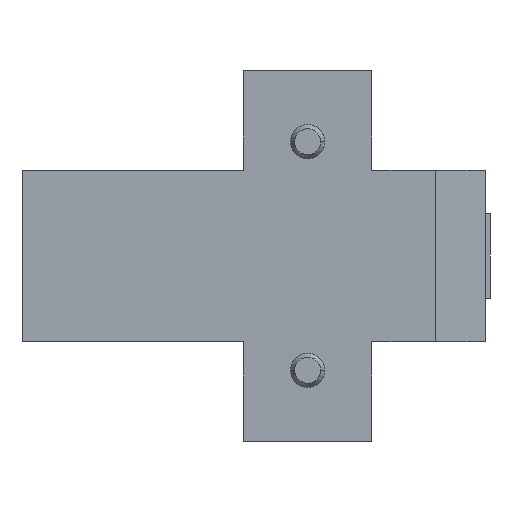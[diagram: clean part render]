
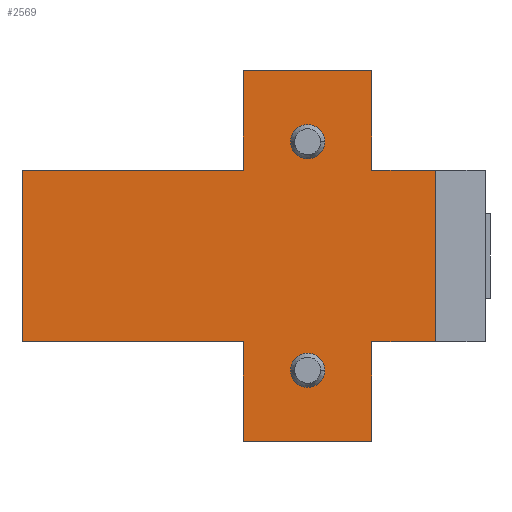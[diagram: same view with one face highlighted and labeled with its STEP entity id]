
A CAD part, left-side view. The second image highlights one B-rep face of the part: STEP entity #2569.
In plain terms, the highlighted planar face has unit normal (-1, 0, 0).
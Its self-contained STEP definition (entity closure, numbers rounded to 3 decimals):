
#11 = EDGE_CURVE ( 'NONE', #3430, #3428, #148, .T. ) ;
#12 = EDGE_CURVE ( 'NONE', #3442, #3446, #2036, .T. ) ;
#13 = EDGE_CURVE ( 'NONE', #3442, #3448, #2035, .T. ) ;
#14 = EDGE_CURVE ( 'NONE', #3447, #3448, #2034, .T. ) ;
#23 = VECTOR ( 'NONE', #2316, 1000. ) ;
#26 = AXIS2_PLACEMENT_3D ( 'NONE', #2210, #2211, #2212 ) ;
#30 = VECTOR ( 'NONE', #2308, 1000. ) ;
#58 = VECTOR ( 'NONE', #2314, 1000. ) ;
#60 = CIRCLE ( 'NONE', #382, 2.4 ) ;
#92 = VECTOR ( 'NONE', #2043, 1000. ) ;
#114 = VECTOR ( 'NONE', #2322, 1000. ) ;
#141 = VECTOR ( 'NONE', #2319, 1000. ) ;
#144 = CIRCLE ( 'NONE', #26, 2.4 ) ;
#148 = CIRCLE ( 'NONE', #344, 2.4 ) ;
#160 = AXIS2_PLACEMENT_3D ( 'NONE', #2934, #2930, #2938 ) ;
#199 = VECTOR ( 'NONE', #475, 1000. ) ;
#208 = VECTOR ( 'NONE', #2046, 1000. ) ;
#229 = VECTOR ( 'NONE', #481, 1000. ) ;
#238 = VECTOR ( 'NONE', #2041, 1000. ) ;
#285 = AXIS2_PLACEMENT_3D ( 'NONE', #488, #489, #490 ) ;
#344 = AXIS2_PLACEMENT_3D ( 'NONE', #2037, #2038, #2039 ) ;
#358 = CIRCLE ( 'NONE', #285, 2.4 ) ;
#375 = VECTOR ( 'NONE', #2311, 1000. ) ;
#381 = VECTOR ( 'NONE', #478, 1000. ) ;
#382 = AXIS2_PLACEMENT_3D ( 'NONE', #2227, #2228, #2229 ) ;
#475 = DIRECTION ( 'NONE',  ( 0., 1., 0. ) ) ;
#476 = LINE ( 'NONE', #477, #381 ) ;
#477 = CARTESIAN_POINT ( 'NONE',  ( 0., -9., -26. ) ) ;
#478 = DIRECTION ( 'NONE',  ( 0., 0., 1. ) ) ;
#479 = LINE ( 'NONE', #480, #229 ) ;
#480 = CARTESIAN_POINT ( 'NONE',  ( 0., -9., 26. ) ) ;
#481 = DIRECTION ( 'NONE',  ( 0., 1., 0. ) ) ;
#488 = CARTESIAN_POINT ( 'NONE',  ( 0., 0., 16. ) ) ;
#489 = DIRECTION ( 'NONE',  ( -1., 0., 0. ) ) ;
#490 = DIRECTION ( 'NONE',  ( 0., 0., -1. ) ) ;
#988 = EDGE_CURVE ( 'NONE', #3428, #3430, #144, .T. ) ;
#994 = EDGE_CURVE ( 'NONE', #2841, #3411, #60, .T. ) ;
#1029 = VERTEX_POINT ( 'NONE', #2285 ) ;
#1050 = EDGE_CURVE ( 'NONE', #3443, #3447, #2304, .T. ) ;
#1051 = EDGE_CURVE ( 'NONE', #3435, #3443, #2305, .T. ) ;
#1052 = EDGE_CURVE ( 'NONE', #3437, #3435, #2306, .T. ) ;
#1053 = EDGE_CURVE ( 'NONE', #3437, #1029, #2307, .T. ) ;
#1054 = EDGE_CURVE ( 'NONE', #3567, #1029, #2317, .T. ) ;
#1055 = EDGE_CURVE ( 'NONE', #3568, #3567, #2310, .T. ) ;
#1056 = EDGE_CURVE ( 'NONE', #3568, #3558, #2313, .T. ) ;
#1057 = EDGE_CURVE ( 'NONE', #3558, #3560, #476, .T. ) ;
#1058 = EDGE_CURVE ( 'NONE', #3560, #3446, #479, .T. ) ;
#1060 = EDGE_CURVE ( 'NONE', #3411, #2841, #358, .T. ) ;
#1252 = CARTESIAN_POINT ( 'NONE',  ( 0., 2.4, 16. ) ) ;
#1258 = CARTESIAN_POINT ( 'NONE',  ( 0., -2.4, 16. ) ) ;
#1273 = CARTESIAN_POINT ( 'NONE',  ( 0., 2.4, -16. ) ) ;
#1275 = CARTESIAN_POINT ( 'NONE',  ( 0., -2.4, -16. ) ) ;
#1280 = CARTESIAN_POINT ( 'NONE',  ( 0., 9., -26. ) ) ;
#1282 = CARTESIAN_POINT ( 'NONE',  ( 0., -9., -26. ) ) ;
#1287 = CARTESIAN_POINT ( 'NONE',  ( 0., 9., 12. ) ) ;
#1288 = CARTESIAN_POINT ( 'NONE',  ( 0., 9., -12. ) ) ;
#1291 = CARTESIAN_POINT ( 'NONE',  ( 0., 9., 26. ) ) ;
#1292 = CARTESIAN_POINT ( 'NONE',  ( 0., 40., -12. ) ) ;
#1293 = CARTESIAN_POINT ( 'NONE',  ( 0., 40., 12. ) ) ;
#1399 = CARTESIAN_POINT ( 'NONE',  ( 0., -9., 12. ) ) ;
#1401 = CARTESIAN_POINT ( 'NONE',  ( 0., -9., 26. ) ) ;
#1408 = CARTESIAN_POINT ( 'NONE',  ( 0., -17.9, -12. ) ) ;
#1409 = CARTESIAN_POINT ( 'NONE',  ( 0., -17.9, 12. ) ) ;
#1868 = ORIENTED_EDGE ( 'NONE', *, *, #994, .F. ) ;
#1869 = ORIENTED_EDGE ( 'NONE', *, *, #1060, .F. ) ;
#1870 = ORIENTED_EDGE ( 'NONE', *, *, #1058, .T. ) ;
#1871 = ORIENTED_EDGE ( 'NONE', *, *, #1057, .T. ) ;
#1872 = ORIENTED_EDGE ( 'NONE', *, *, #1056, .T. ) ;
#1873 = ORIENTED_EDGE ( 'NONE', *, *, #1055, .F. ) ;
#1874 = ORIENTED_EDGE ( 'NONE', *, *, #1054, .F. ) ;
#1875 = ORIENTED_EDGE ( 'NONE', *, *, #1053, .T. ) ;
#1876 = ORIENTED_EDGE ( 'NONE', *, *, #1052, .F. ) ;
#1877 = ORIENTED_EDGE ( 'NONE', *, *, #1051, .F. ) ;
#1878 = ORIENTED_EDGE ( 'NONE', *, *, #1050, .F. ) ;
#1879 = ORIENTED_EDGE ( 'NONE', *, *, #14, .F. ) ;
#1880 = ORIENTED_EDGE ( 'NONE', *, *, #13, .T. ) ;
#1881 = ORIENTED_EDGE ( 'NONE', *, *, #12, .F. ) ;
#1882 = ORIENTED_EDGE ( 'NONE', *, *, #988, .F. ) ;
#1883 = ORIENTED_EDGE ( 'NONE', *, *, #11, .F. ) ;
#2032 = CARTESIAN_POINT ( 'NONE',  ( 0., 9., -26. ) ) ;
#2034 = LINE ( 'NONE', #2044, #208 ) ;
#2035 = LINE ( 'NONE', #2042, #92 ) ;
#2036 = LINE ( 'NONE', #2032, #238 ) ;
#2037 = CARTESIAN_POINT ( 'NONE',  ( 0., 0., -16. ) ) ;
#2038 = DIRECTION ( 'NONE',  ( -1., 0., 0. ) ) ;
#2039 = DIRECTION ( 'NONE',  ( 0., 0., -1. ) ) ;
#2041 = DIRECTION ( 'NONE',  ( 0., 0., 1. ) ) ;
#2042 = CARTESIAN_POINT ( 'NONE',  ( 0., -12.007, 12. ) ) ;
#2043 = DIRECTION ( 'NONE',  ( 0., 1., 0. ) ) ;
#2044 = CARTESIAN_POINT ( 'NONE',  ( 0., 40., -12. ) ) ;
#2046 = DIRECTION ( 'NONE',  ( 0., 0., 1. ) ) ;
#2210 = CARTESIAN_POINT ( 'NONE',  ( 0., 0., -16. ) ) ;
#2211 = DIRECTION ( 'NONE',  ( -1., 0., 0. ) ) ;
#2212 = DIRECTION ( 'NONE',  ( 0., 0., -1. ) ) ;
#2227 = CARTESIAN_POINT ( 'NONE',  ( 0., 0., 16. ) ) ;
#2228 = DIRECTION ( 'NONE',  ( -1., 0., 0. ) ) ;
#2229 = DIRECTION ( 'NONE',  ( 0., 0., -1. ) ) ;
#2285 = CARTESIAN_POINT ( 'NONE',  ( 0., -9., -12. ) ) ;
#2303 = CARTESIAN_POINT ( 'NONE',  ( 0., -12.007, -12. ) ) ;
#2304 = LINE ( 'NONE', #2303, #30 ) ;
#2305 = LINE ( 'NONE', #2309, #375 ) ;
#2306 = LINE ( 'NONE', #2312, #58 ) ;
#2307 = LINE ( 'NONE', #2315, #23 ) ;
#2308 = DIRECTION ( 'NONE',  ( 0., 1., 0. ) ) ;
#2309 = CARTESIAN_POINT ( 'NONE',  ( 0., 9., -26. ) ) ;
#2310 = LINE ( 'NONE', #2320, #114 ) ;
#2311 = DIRECTION ( 'NONE',  ( 0., 0., 1. ) ) ;
#2312 = CARTESIAN_POINT ( 'NONE',  ( 0., -9., -26. ) ) ;
#2313 = LINE ( 'NONE', #2323, #199 ) ;
#2314 = DIRECTION ( 'NONE',  ( 0., 1., 0. ) ) ;
#2315 = CARTESIAN_POINT ( 'NONE',  ( 0., -9., -26. ) ) ;
#2316 = DIRECTION ( 'NONE',  ( 0., 0., 1. ) ) ;
#2317 = LINE ( 'NONE', #2318, #141 ) ;
#2318 = CARTESIAN_POINT ( 'NONE',  ( 0., -12.007, -12. ) ) ;
#2319 = DIRECTION ( 'NONE',  ( 0., 1., 0. ) ) ;
#2320 = CARTESIAN_POINT ( 'NONE',  ( 0., -17.9, 30.452 ) ) ;
#2322 = DIRECTION ( 'NONE',  ( 0., 0., -1. ) ) ;
#2323 = CARTESIAN_POINT ( 'NONE',  ( 0., -12.007, 12. ) ) ;
#2569 = ADVANCED_FACE ( 'NONE', ( #2933, #2928, #2936 ), #2937, .F. ) ;
#2841 = VERTEX_POINT ( 'NONE', #1252 ) ;
#2928 = FACE_OUTER_BOUND ( 'NONE', #3470, .T. ) ;
#2930 = DIRECTION ( 'NONE',  ( 1., 0., 0. ) ) ;
#2933 = FACE_BOUND ( 'NONE', #3458, .T. ) ;
#2934 = CARTESIAN_POINT ( 'NONE',  ( 0., -12.007, -12. ) ) ;
#2936 = FACE_BOUND ( 'NONE', #3454, .T. ) ;
#2937 = PLANE ( 'NONE',  #160 ) ;
#2938 = DIRECTION ( 'NONE',  ( 0., 0., -1. ) ) ;
#3411 = VERTEX_POINT ( 'NONE', #1258 ) ;
#3428 = VERTEX_POINT ( 'NONE', #1273 ) ;
#3430 = VERTEX_POINT ( 'NONE', #1275 ) ;
#3435 = VERTEX_POINT ( 'NONE', #1280 ) ;
#3437 = VERTEX_POINT ( 'NONE', #1282 ) ;
#3442 = VERTEX_POINT ( 'NONE', #1287 ) ;
#3443 = VERTEX_POINT ( 'NONE', #1288 ) ;
#3446 = VERTEX_POINT ( 'NONE', #1291 ) ;
#3447 = VERTEX_POINT ( 'NONE', #1292 ) ;
#3448 = VERTEX_POINT ( 'NONE', #1293 ) ;
#3454 = EDGE_LOOP ( 'NONE', ( #1869, #1868 ) ) ;
#3458 = EDGE_LOOP ( 'NONE', ( #1883, #1882 ) ) ;
#3470 = EDGE_LOOP ( 'NONE', ( #1881, #1880, #1879, #1878, #1877, #1876, #1875, #1874, #1873, #1872, #1871, #1870 ) ) ;
#3558 = VERTEX_POINT ( 'NONE', #1399 ) ;
#3560 = VERTEX_POINT ( 'NONE', #1401 ) ;
#3567 = VERTEX_POINT ( 'NONE', #1408 ) ;
#3568 = VERTEX_POINT ( 'NONE', #1409 ) ;
